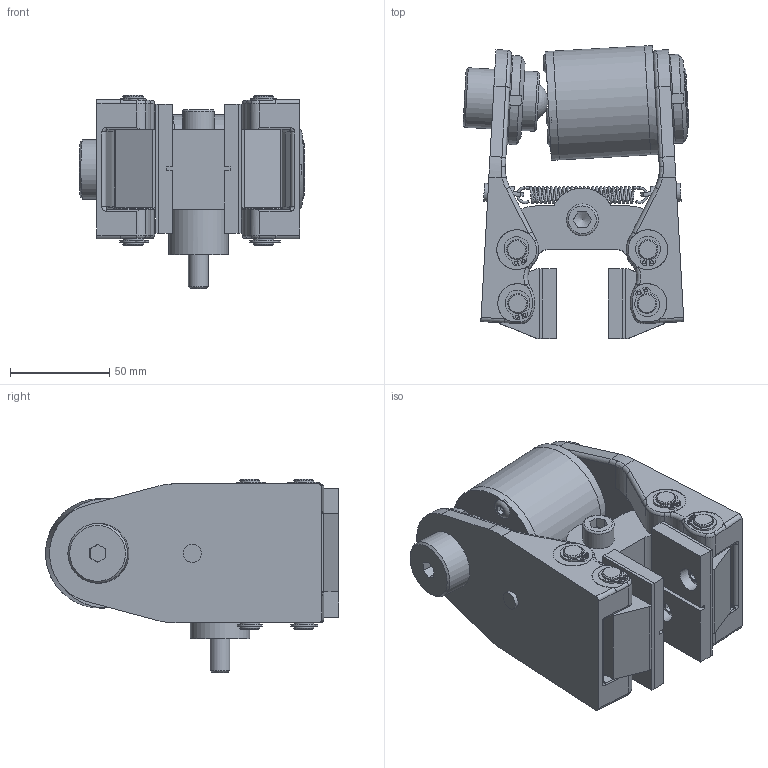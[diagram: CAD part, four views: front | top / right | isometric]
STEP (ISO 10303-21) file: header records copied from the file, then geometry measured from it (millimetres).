
FILE_DESCRIPTION(/* description */ ('','CAx-IF Rec.Pracs.---Representation and Presentation of Product Manufacturing Information (PMI)---4.0---2014-10-13'),/* implementation_level */ '2;1');
FILE_NAME(/* name */ 'X:\INVENTOR\DISEGNI\19_Pinze\STEP x Sito\PNEUM-NEGATIVE\19_36_001_04 PPB-N001_25,4.stp',/* time_stamp */ '2018-02-20T12:23:32+01:00',/* author */ ('stefano'),/* organization */ (''),/* preprocessor_version */ 'ST-DEVELOPER v17',/* originating_system */ 'Autodesk Inventor 2018',/* authorisation */ '');
FILE_SCHEMA (('AP242_MANAGED_MODEL_BASED_3D_ENGINEERING_MIM_LF { 1 0 10303 442 1 1 4 }'));
Length unit declared in the file: millimetre
Products named in the file (1): 19_36_001_04 PPB-N001_25,4_Substitute_2
Bounding box: 113.58 x 147.32 x 97.25 mm (x, y, z)
Volume: 497627.9 mm3; surface area: 115119.2 mm2
Topology: 4 solids, 4 shells, 675 faces, 1860 edges, 1218 vertices
Faces by surface type: plane 325, cylinder 225, torus 68, cone 37, bspline 17, sphere 3
Full cylindrical faces by diameter (mm): 1.2 x2, 1.5 x16, 2.5 x2, 4.25 x2, 4.5 x2, 4.917 x1, 6 x3, 6.25 x3, 6.5 x1, 7.4 x2, 7.5 x2, 7.75 x3, 9 x2, 9.5 x8, 10 x19, 10.1 x1, 10.5 x7, 11.445 x1, 12 x4, 15 x1, 16 x1, 30 x4, 35 x1, 55 x3
Entity records: 26544 total; most frequent: CARTESIAN_POINT 8586, DIRECTION 3798, ORIENTED_EDGE 3670, EDGE_CURVE 1835, AXIS2_PLACEMENT_3D 1474, VERTEX_POINT 1218, LINE 850, VECTOR 850
